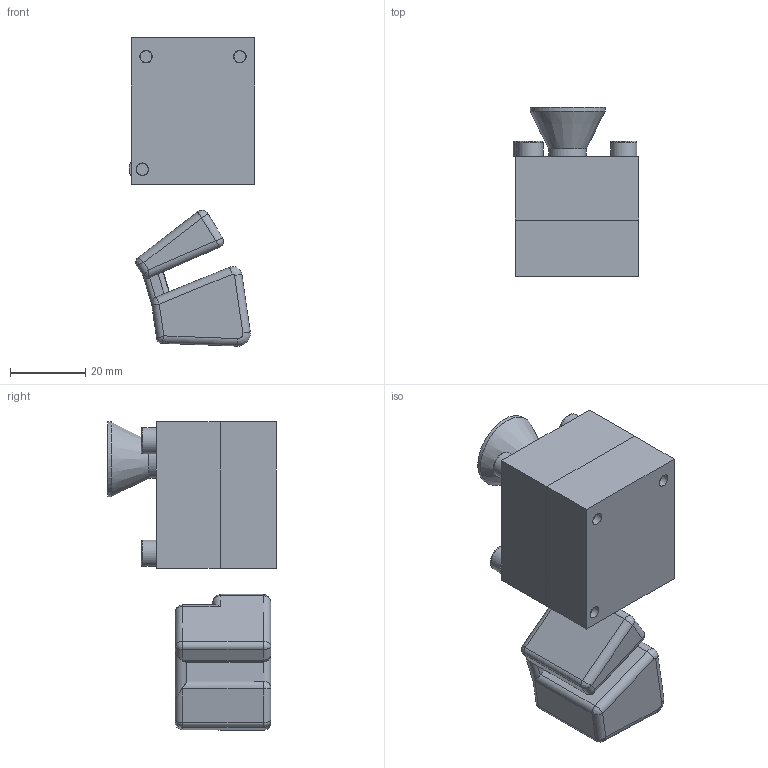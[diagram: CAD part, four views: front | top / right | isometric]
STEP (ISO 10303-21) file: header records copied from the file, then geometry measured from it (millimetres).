
FILE_DESCRIPTION(/* description */ (''),/* implementation_level */ '2;1');
FILE_NAME(/* name */ 'dr350s cush damper v1.step',/* time_stamp */ '2026-06-04T16:07:55-07:00',/* author */ (''),/* organization */ (''),/* preprocessor_version */ 'ST-DEVELOPER v20.1',/* originating_system */ 'Autodesk Translation Framework v15.8.0.0',/* authorisation */ '');
FILE_SCHEMA (('AUTOMOTIVE_DESIGN { 1 0 10303 214 3 1 1 }'));
Length unit declared in the file: millimetre
Products named in the file (2): dr350s cush damper v1; DIN 912 - M4 x 0.7 x 30 Steel 4.6 Plain
Assembly tree (3 placements, depth 2):
  dr350s cush damper v1
    DIN 912 - M4 x 0.7 x 30 Steel 4.6 Plain  x3
Bounding box: 33.5 x 45 x 82.13 mm (x, y, z)
Volume: 41499.6 mm3; surface area: 21836.7 mm2
Topology: 7 solids, 7 shells, 261 faces, 615 edges, 355 vertices
Faces by surface type: plane 113, cylinder 96, bspline 31, cone 10, sphere 8, torus 3
Full cylindrical faces by diameter (mm): 3.332 x3, 3.908 x3, 4.5 x3, 6.7 x1, 7 x3, 10 x1, 18.8 x1, 20 x1
Entity records: 7357 total; most frequent: CARTESIAN_POINT 2127, DIRECTION 1083, ORIENTED_EDGE 1054, EDGE_CURVE 527, AXIS2_PLACEMENT_3D 401, VERTEX_POINT 317, LINE 281, VECTOR 281
